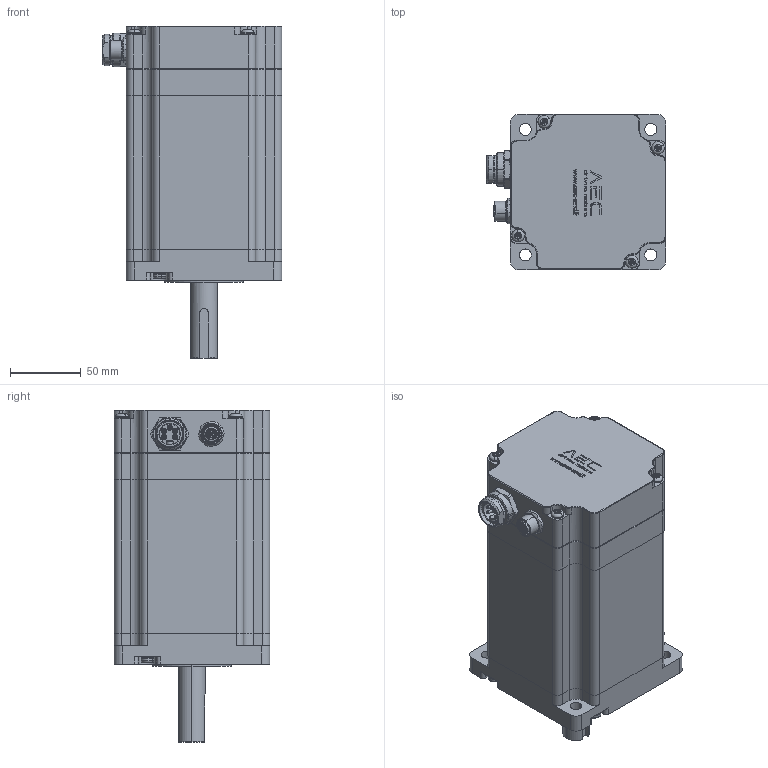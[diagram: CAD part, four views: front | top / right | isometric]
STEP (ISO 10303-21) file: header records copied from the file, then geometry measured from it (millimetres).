
FILE_DESCRIPTION (( 'STEP AP214' ), '1' );
FILE_NAME ('M110SH150-TO0512P24C.STEP', '2025-05-24T08:54:12', ( '' ), ( '' ), 'SwSTEP 2.0', 'SolidWorks 2019', '' );
FILE_SCHEMA (( 'AUTOMOTIVE_DESIGN' ));
Length unit declared in the file: millimetre
Products named in the file (1): M110SH150-TO0512P24C
Bounding box: 127 x 110 x 235 mm (x, y, z)
Surface area: 284647.9 mm2 (no closed solid volume)
Topology: 0 solids, 48 shells, 1963 faces, 5078 edges, 3230 vertices
Faces by surface type: plane 726, cylinder 569, bspline 373, cone 161, torus 134
Entity records: 97521 total; most frequent: CARTESIAN_POINT 31630, ORIENTED_EDGE 9924, DIRECTION 7744, EDGE_CURVE 4966, VERTEX_POINT 3230, AXIS2_PLACEMENT_3D 2922, EDGE_LOOP 2206, UNCERTAINTY_MEASURE_WITH_UNIT 2010
